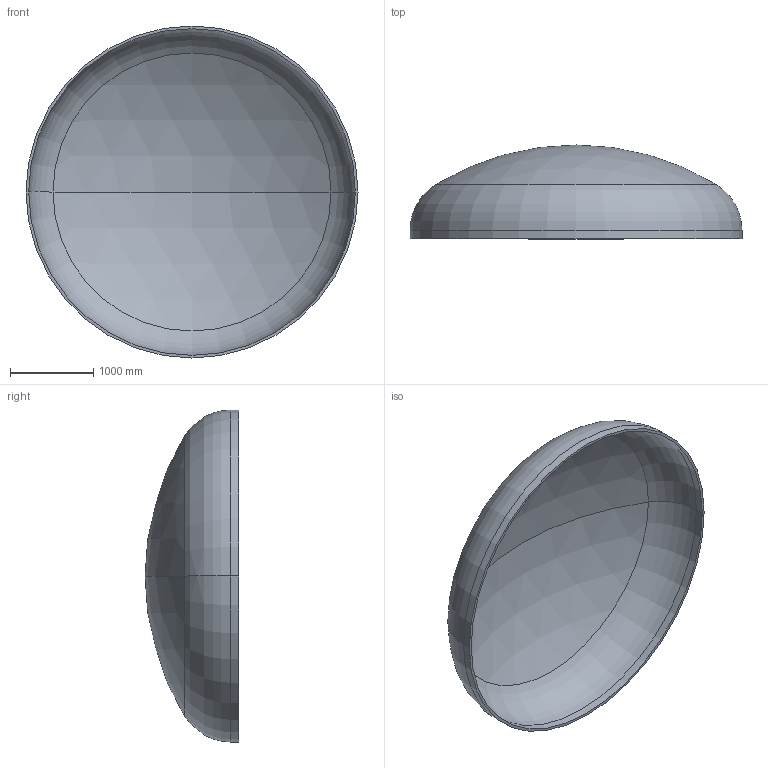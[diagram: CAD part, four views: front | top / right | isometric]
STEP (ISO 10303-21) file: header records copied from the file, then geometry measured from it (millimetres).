
FILE_DESCRIPTION (( 'STEP AP203' ), '1' );
FILE_NAME ('DIN 28013 Korbbogenform_-_Boden DIN 28013 - 4000 x 100 - I - s=32.step', '2016-07-01T22:16:36', ( '' ), ( '' ), 'SwSTEP 2.0', 'SolidWorks 2013', '' );
FILE_SCHEMA (( 'CONFIG_CONTROL_DESIGN' ));
Length unit declared in the file: millimetre
Products named in the file (1): DIN 28013 Korbbogenform_-_Boden DIN 28013 - 4000 x 100 - I - s=32
Bounding box: 4000 x 1129.36 x 4000 mm (x, y, z)
Volume: 590794214 mm3; surface area: 37325675.9 mm2
Topology: 1 solids, 1 shells, 13 faces, 24 edges, 14 vertices
Faces by surface type: torus 4, cylinder 4, sphere 4, plane 1
Entity records: 407 total; most frequent: DIRECTION 72, CARTESIAN_POINT 52, ORIENTED_EDGE 48, AXIS2_PLACEMENT_3D 34, EDGE_CURVE 24, CIRCLE 20, EDGE_LOOP 14, VERTEX_POINT 14
